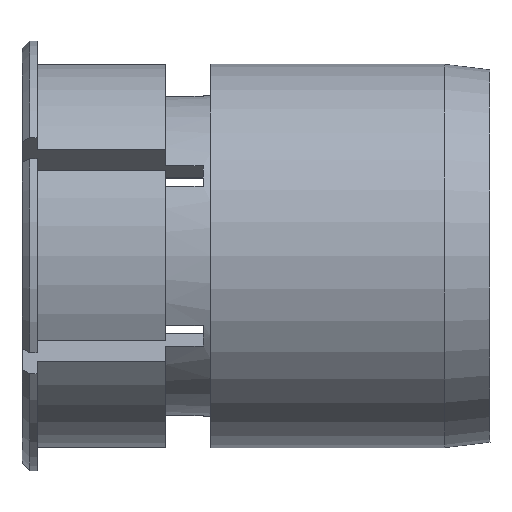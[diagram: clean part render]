
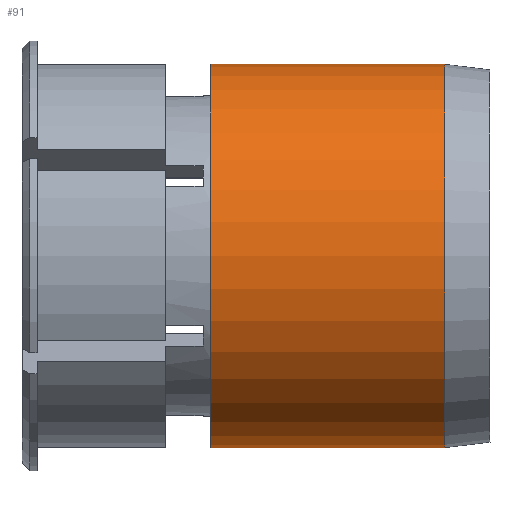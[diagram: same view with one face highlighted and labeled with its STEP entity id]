
A CAD part, top view. The second image highlights one B-rep face of the part: STEP entity #91.
In plain terms, the highlighted cylindrical face has radius 12.7 mm (diameter 25.4 mm), a partial arc.
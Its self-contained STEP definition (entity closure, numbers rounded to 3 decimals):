
#91=ADVANCED_FACE('',(#238),#239,.T.);
#238=FACE_OUTER_BOUND('',#440,.T.);
#239=CYLINDRICAL_SURFACE('',#441,12.7);
#440=EDGE_LOOP('',(#641,#642,#643,#644));
#441=AXIS2_PLACEMENT_3D('',#645,#646,#647);
#641=ORIENTED_EDGE('',*,*,#1263,.F.);
#642=ORIENTED_EDGE('',*,*,#1264,.T.);
#643=ORIENTED_EDGE('',*,*,#1265,.F.);
#644=ORIENTED_EDGE('',*,*,#1259,.F.);
#645=CARTESIAN_POINT('',(20.25,0.,0.0));
#646=DIRECTION('',(1.0,0.,0.0));
#647=DIRECTION('',(0.,1.0,0.0));
#1259=EDGE_CURVE('',#1507,#1510,#1511,.T.);
#1263=EDGE_CURVE('',#1516,#1507,#1517,.T.);
#1264=EDGE_CURVE('',#1516,#1518,#1519,.T.);
#1265=EDGE_CURVE('',#1510,#1518,#1520,.T.);
#1507=VERTEX_POINT('',#1878);
#1510=VERTEX_POINT('',#1882);
#1511=CIRCLE('',#1883,12.7);
#1516=VERTEX_POINT('',#1889);
#1517=LINE('',#1890,#1891);
#1518=VERTEX_POINT('',#1892);
#1519=CIRCLE('',#1893,12.7);
#1520=LINE('',#1894,#1895);
#1878=CARTESIAN_POINT('',(28.,12.7,0.0));
#1882=CARTESIAN_POINT('',(28.,-12.7,0.));
#1883=AXIS2_PLACEMENT_3D('',#2461,#2462,#2463);
#1889=CARTESIAN_POINT('',(12.5,12.7,0.0));
#1890=CARTESIAN_POINT('',(20.25,12.7,0.));
#1891=VECTOR('',#2468,1.0);
#1892=CARTESIAN_POINT('',(12.5,-12.7,0.));
#1893=AXIS2_PLACEMENT_3D('',#2469,#2470,#2471);
#1894=CARTESIAN_POINT('',(20.25,-12.7,0.));
#1895=VECTOR('',#2472,1.0);
#2461=CARTESIAN_POINT('',(28.,0.,0.0));
#2462=DIRECTION('',(1.0,0.,0.0));
#2463=DIRECTION('',(0.,1.0,0.0));
#2468=DIRECTION('',(1.0,0.,0.0));
#2469=CARTESIAN_POINT('',(12.5,0.,0.0));
#2470=DIRECTION('',(1.0,0.,0.0));
#2471=DIRECTION('',(0.,1.0,0.0));
#2472=DIRECTION('',(-1.0,0.,-0.0));
